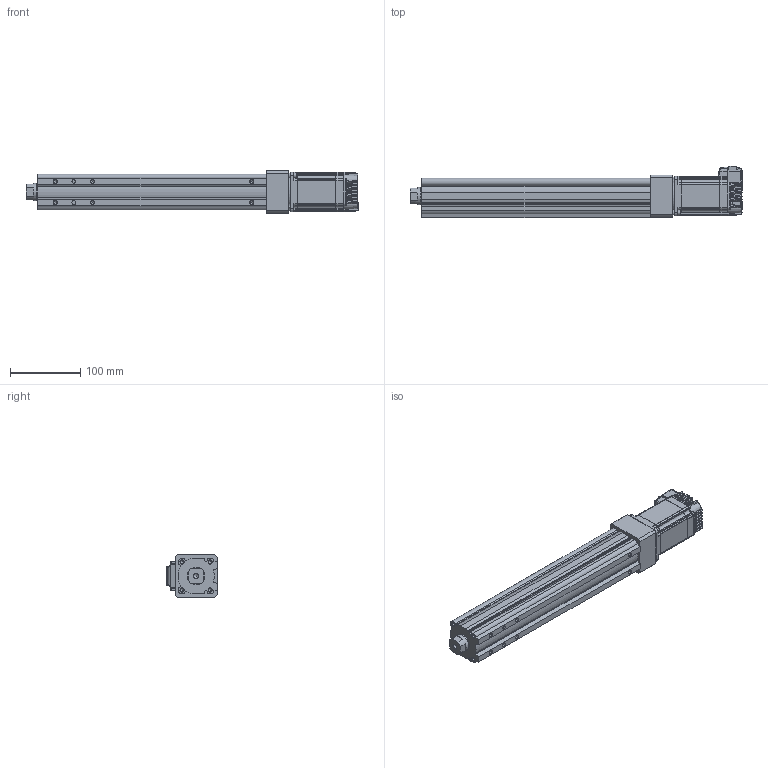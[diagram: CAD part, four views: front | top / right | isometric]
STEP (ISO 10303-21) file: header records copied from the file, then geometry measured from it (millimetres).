
FILE_DESCRIPTION (( 'STEP AP214' ), '1' );
FILE_NAME ('LEY3(+)-32DNM1□-200-23L.STEP', '2023-04-06T07:50:33', ( '' ), ( '' ), 'SwSTEP 2.0', 'SolidWorks 2019', '' );
FILE_SCHEMA (( 'AUTOMOTIVE_DESIGN' ));
Length unit declared in the file: millimetre
Products named in the file (5): LEY3(+)-32NM1?_BODY_200; CM3(+)-23L50A_2-M4_01; LEY3(+)-32NM1?_ROD_200; LEY3(+)-32DNM1□-200-23L; LEY3(+)-32DNM1_MOTOR Flange
Assembly tree (4 placements, depth 2):
  LEY3(+)-32DNM1□-200-23L
    LEY3(+)-32NM1?_BODY_200
    LEY3(+)-32NM1?_ROD_200
    LEY3(+)-32DNM1_MOTOR Flange
    CM3(+)-23L50A_2-M4_01
Bounding box: 472.8 x 73.75 x 60 mm (x, y, z)
Volume: 1147914 mm3; surface area: 190066 mm2
Topology: 4 solids, 13 shells, 1439 faces, 3713 edges, 2295 vertices
Faces by surface type: plane 668, cylinder 432, bspline 133, cone 101, torus 58, sphere 47
Full cylindrical faces by diameter (mm): 2.5 x4, 3 x2, 3.2 x4, 4.2 x1, 4.5 x7, 4.9 x10, 5 x1, 6.2 x4, 6.35 x1, 6.8 x1, 7 x2, 8 x2, 24.8 x1, 25 x2, 32 x2, 38.1 x1
Entity records: 49056 total; most frequent: CARTESIAN_POINT 12638, ORIENTED_EDGE 7102, DIRECTION 6555, EDGE_CURVE 3551, VERTEX_POINT 2267, AXIS2_PLACEMENT_3D 2230, LINE 2095, VECTOR 2095
